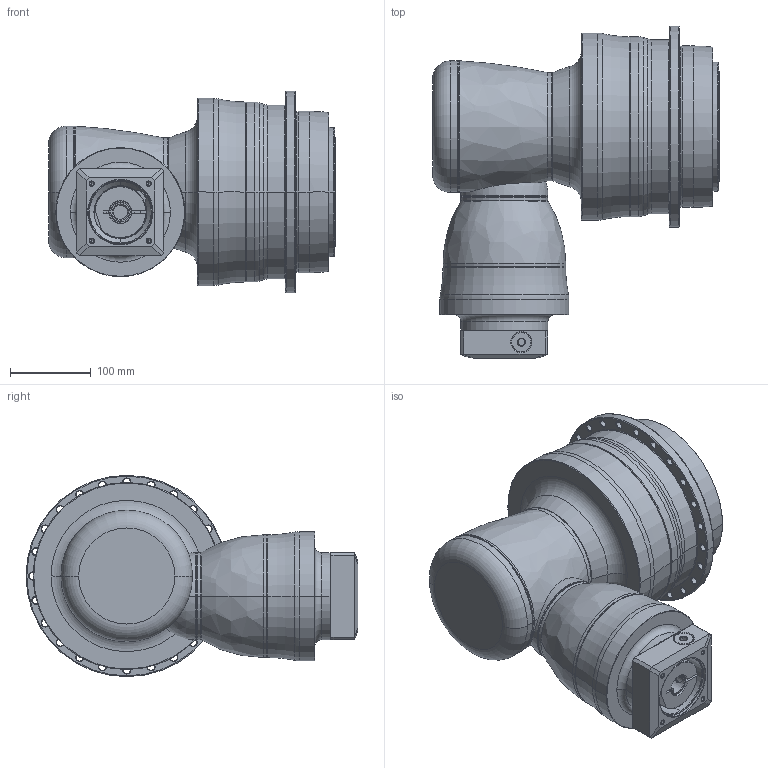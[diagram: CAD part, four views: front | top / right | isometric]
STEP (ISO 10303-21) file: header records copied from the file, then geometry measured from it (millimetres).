
FILE_DESCRIPTION((''),'2;1');
FILE_NAME('APK200_4ST_24-P0409510201_ASM','2018-10-04T',('D00080'),(''),'PRO/ENGINEER BY PARAMETRIC TECHNOLOGY CORPORATION, 2015240','PRO/ENGINEER BY PARAMETRIC TECHNOLOGY CORPORATION, 2015240','');
FILE_SCHEMA(('CONFIG_CONTROL_DESIGN'));
Length unit declared in the file: millimetre
Products named in the file (13): P1008500002; P1832600001; P0278601003; P0359601103; P1211600001; P1315500001; P1007501001; P1317501101; P0503500010; P0912451001; P0409510201; 21711418017; APK200_4ST_24-P0409510201_ASM
Assembly tree (12 placements, depth 2):
  APK200_4ST_24-P0409510201_ASM
    P1008500002
    P1832600001
    P0278601003
    P0359601103
    P1211600001
    P1315500001
    P1007501001
    P1317501101
    P0503500010
    P0912451001
    P0409510201
    21711418017
Bounding box: 355.5 x 411.25 x 249.5 mm (x, y, z)
Volume: 12623447.8 mm3; surface area: 926525.3 mm2
Topology: 13 solids, 38 shells, 768 faces, 1802 edges, 1089 vertices
Faces by surface type: cylinder 311, cone 221, plane 129, torus 84, bspline 21, sphere 2
Entity records: 27503 total; most frequent: CARTESIAN_POINT 9261, DIRECTION 4194, ORIENTED_EDGE 3414, AXIS2_PLACEMENT_3D 1799, EDGE_CURVE 1758, VERTEX_POINT 1089, CIRCLE 1017, EDGE_LOOP 905
